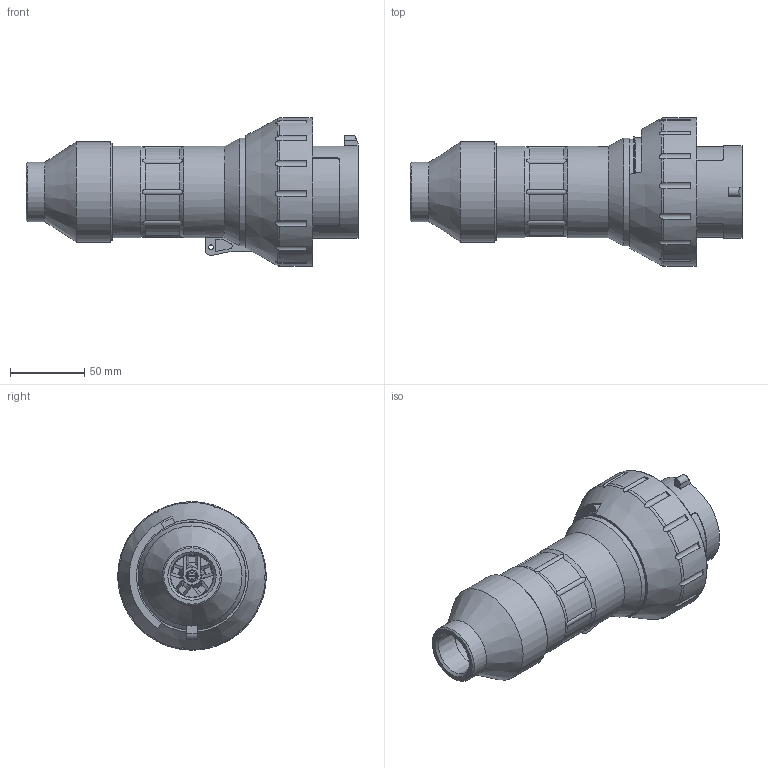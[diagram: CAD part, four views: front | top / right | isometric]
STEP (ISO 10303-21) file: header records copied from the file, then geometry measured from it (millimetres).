
FILE_DESCRIPTION((''),'2;1');
FILE_NAME('C:\Users\n.o.gerashenko\Desktop\Новая папка\64344\ВГМЕ-32-380-4_.stp','2021-04-10T09:51:02',('N.O.Gerashenko'),(''),'Autodesk Inventor 2012','Autodesk Inventor 2012','');
FILE_SCHEMA(('AUTOMOTIVE_DESIGN { 1 0 10303 214 1 1 1 1 }'));
Length unit declared in the file: millimetre
Products named in the file (1): ВГМЕ-32-380-4_Внешний контур_1
Bounding box: 223.8 x 99.97 x 99.94 mm (x, y, z)
Surface area: 206129.4 mm2 (no closed solid volume)
Topology: 0 solids, 21 shells, 1659 faces, 4669 edges, 3090 vertices
Faces by surface type: plane 1096, cylinder 335, bspline 114, cone 65, torus 49
Full cylindrical faces by diameter (mm): 2.85 x10, 3 x4, 3.2 x1, 3.5 x2, 3.7 x1, 4.3 x1, 4.5 x2, 4.9 x1, 5.85 x4, 6.6 x6, 6.85 x3, 7 x2, 7.3 x2, 7.8 x1, 8 x6, 8.2 x1, 8.3 x1, 9.1 x4, 9.4 x2, 9.9 x1, 10.1 x1, 11 x4, 28.575 x1, 29 x1, 33 x1, 39 x1, 40 x2, 55.5 x1, 57 x1, 61 x2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
Entity records: 58386 total; most frequent: CARTESIAN_POINT 15430, ORIENTED_EDGE 8866, DIRECTION 7959, EDGE_CURVE 4433, VERTEX_POINT 2997, VECTOR 2965, LINE 2965, AXIS2_PLACEMENT_3D 2497
